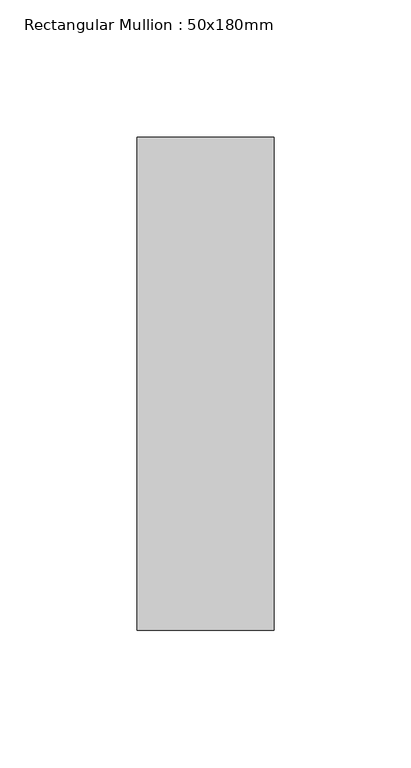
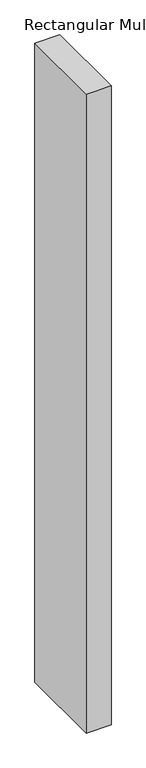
"""IFC4 building model written with IfcOpenShell, lengths in millimetres: member geometry, Rectangular Mullion : 50x180mm."""

from ifc_helpers import new_model, si_unit, frame, origin, place, context, project, spatial, polyline, outline, extrude, source, transform, mapped, element, save


def rectangular_mullion_50x180mm_3165a896(model_context):
    return source(origin(), model_context, "Body", "SweptSolid", [
        extrude(outline(polyline([(0.0, 90.0), (0.0, -90.0), (-50.0, -90.0), (-50.0, 90.0), (0.0, 90.0)])), frame((0.0, 0.0, -1365.8333333), z_axis=(0.0, 0.0, 1.0), x_axis=(1.0, 0.0, 0.0)), (0.0, 0.0, 1.0), 1365.8333333),
    ])


if __name__ == "__main__":
    model = new_model("IFC4")
    model_context = context("Model", 3, world=origin())
    ifc_project = project(units=[si_unit("LENGTHUNIT", "METRE", prefix="MILLI")], contexts=[model_context])
    site = spatial("IfcSite", under=ifc_project)
    building = spatial("IfcBuilding", under=site)
    placement = place(None, origin())
    rectangular_mullion_50x180mm_shape = rectangular_mullion_50x180mm_3165a896(model_context)
    element("IfcMember", 1, ObjectType="Rectangular Mullion : 50x180mm", at=placement, inside=building, context=model_context, shape_type="MappedRepresentation", body=[
        mapped(rectangular_mullion_50x180mm_shape, transform((0.0, 0.0, 0.0), x_axis=(1.0, 0.0, 0.0), y_axis=(0.0, 1.0, 0.0), z_axis=(0.0, 0.0, 1.0))),
    ])
    save(model, "model.ifc")
